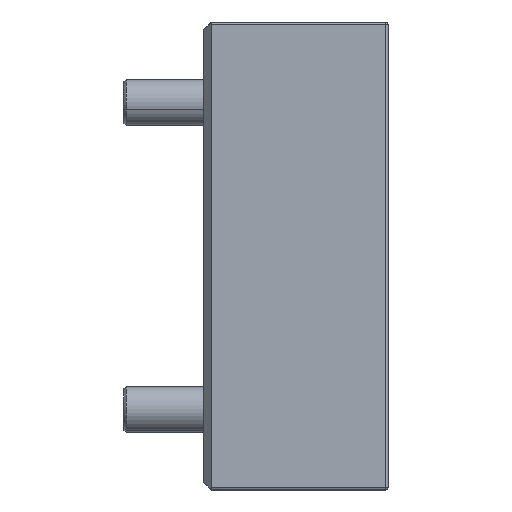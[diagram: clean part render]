
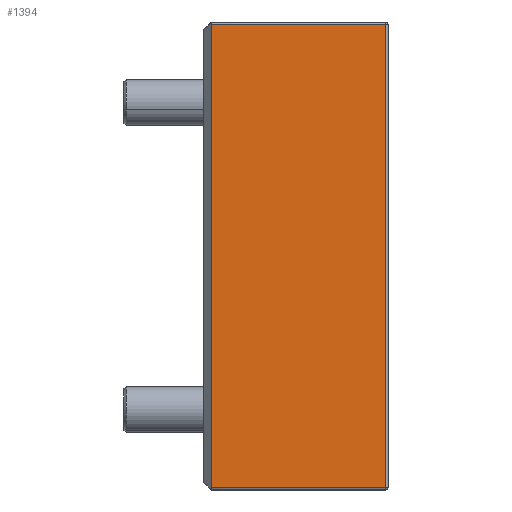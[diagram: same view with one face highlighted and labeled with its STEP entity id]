
A CAD part, front view. The second image highlights one B-rep face of the part: STEP entity #1394.
In plain terms, the highlighted planar face has unit normal (0, -1, 0) as drawn and (0, 1, 0) by its records, which use the part's own axes.
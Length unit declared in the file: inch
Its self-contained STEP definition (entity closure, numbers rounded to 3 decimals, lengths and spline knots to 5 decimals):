
#9 = FACE_OUTER_BOUND ( 'NONE', #232, .T. ) ;
#51 = LINE ( 'NONE', #1980, #1367 ) ;
#118 = CARTESIAN_POINT ( 'NONE',  ( -1.905, 0., -1.5 ) ) ;
#132 = DIRECTION ( 'NONE',  ( 0., 1., 0. ) ) ;
#136 = VERTEX_POINT ( 'NONE', #1432 ) ;
#203 = ORIENTED_EDGE ( 'NONE', *, *, #1606, .T. ) ;
#232 = EDGE_LOOP ( 'NONE', ( #736, #1059, #1237, #203 ) ) ;
#315 = VERTEX_POINT ( 'NONE', #1857 ) ;
#372 = VERTEX_POINT ( 'NONE', #602 ) ;
#442 = LINE ( 'NONE', #1158, #706 ) ;
#601 = CARTESIAN_POINT ( 'NONE',  ( -1.885, 0., -0.02 ) ) ;
#602 = CARTESIAN_POINT ( 'NONE',  ( -1.885, 0., -1.44 ) ) ;
#706 = VECTOR ( 'NONE', #1163, 39.37008 ) ;
#712 = EDGE_CURVE ( 'NONE', #1478, #136, #1753, .T. ) ;
#736 = ORIENTED_EDGE ( 'NONE', *, *, #712, .T. ) ;
#856 = AXIS2_PLACEMENT_3D ( 'NONE', #118, #132, #1864 ) ;
#917 = LINE ( 'NONE', #1655, #1190 ) ;
#940 = EDGE_CURVE ( 'NONE', #136, #315, #51, .T. ) ;
#1059 = ORIENTED_EDGE ( 'NONE', *, *, #940, .T. ) ;
#1062 = PLANE ( 'NONE',  #856 ) ;
#1158 = CARTESIAN_POINT ( 'NONE',  ( -1.905, 0., -1.44 ) ) ;
#1163 = DIRECTION ( 'NONE',  ( -1., 0., 0. ) ) ;
#1179 = DIRECTION ( 'NONE',  ( 0., 0., 1. ) ) ;
#1186 = DIRECTION ( 'NONE',  ( 1., 0., 0. ) ) ;
#1190 = VECTOR ( 'NONE', #1179, 39.37008 ) ;
#1198 = DIRECTION ( 'NONE',  ( 0., 0., -1. ) ) ;
#1237 = ORIENTED_EDGE ( 'NONE', *, *, #1491, .T. ) ;
#1333 = VECTOR ( 'NONE', #1186, 39.37008 ) ;
#1367 = VECTOR ( 'NONE', #1198, 39.37008 ) ;
#1394 = ADVANCED_FACE ( 'NONE', ( #9 ), #1062, .T. ) ;
#1432 = CARTESIAN_POINT ( 'NONE',  ( 1.885, 0., -0.02 ) ) ;
#1478 = VERTEX_POINT ( 'NONE', #601 ) ;
#1491 = EDGE_CURVE ( 'NONE', #315, #372, #442, .T. ) ;
#1606 = EDGE_CURVE ( 'NONE', #372, #1478, #917, .T. ) ;
#1655 = CARTESIAN_POINT ( 'NONE',  ( -1.885, 0., -1.5 ) ) ;
#1753 = LINE ( 'NONE', #1824, #1333 ) ;
#1824 = CARTESIAN_POINT ( 'NONE',  ( 1.905, 0., -0.02 ) ) ;
#1857 = CARTESIAN_POINT ( 'NONE',  ( 1.885, 0., -1.44 ) ) ;
#1864 = DIRECTION ( 'NONE',  ( -1., 0., 0. ) ) ;
#1980 = CARTESIAN_POINT ( 'NONE',  ( 1.885, 0., -1.5 ) ) ;
